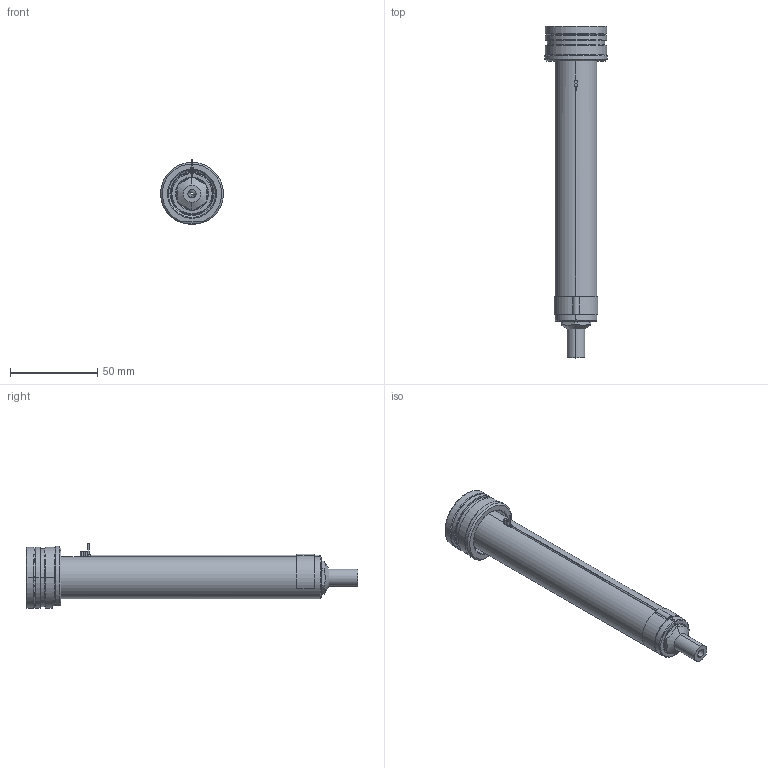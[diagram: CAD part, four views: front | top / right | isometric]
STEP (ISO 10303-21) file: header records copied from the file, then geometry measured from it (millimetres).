
FILE_DESCRIPTION((''),'2;1');
FILE_NAME('EO06_VG-ST_ESG_160_SW','2024-02-19T12:41:30',('sundharh'),(''),'CREO PARAMETRIC BY PTC INC, 2023154','CREO PARAMETRIC BY PTC INC, 2023154','');
FILE_SCHEMA(('CONFIG_CONTROL_DESIGN'));
Length unit declared in the file: millimetre
Products named in the file (1): EO06_VG-ST_ESG_160_SW
Bounding box: 35.93 x 190 x 37 mm (x, y, z)
Volume: 82183.4 mm3; surface area: 22634.5 mm2
Topology: 2 solids, 2 shells, 176 faces, 448 edges, 273 vertices
Faces by surface type: cylinder 68, plane 41, cone 34, torus 21, bspline 10, sphere 2
Entity records: 6169 total; most frequent: CARTESIAN_POINT 1854, DIRECTION 952, ORIENTED_EDGE 884, EDGE_CURVE 442, AXIS2_PLACEMENT_3D 398, VERTEX_POINT 273, CIRCLE 232, EDGE_LOOP 189
